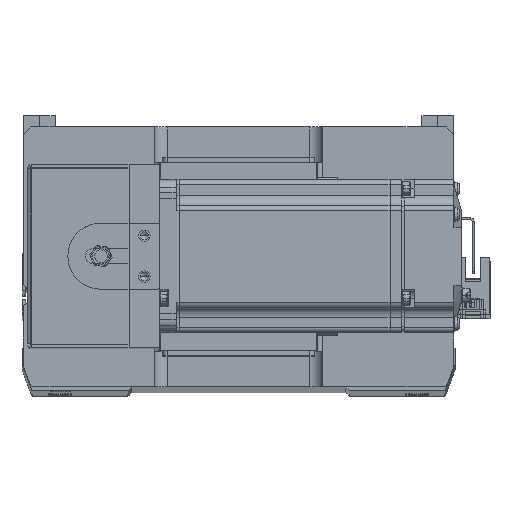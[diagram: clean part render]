
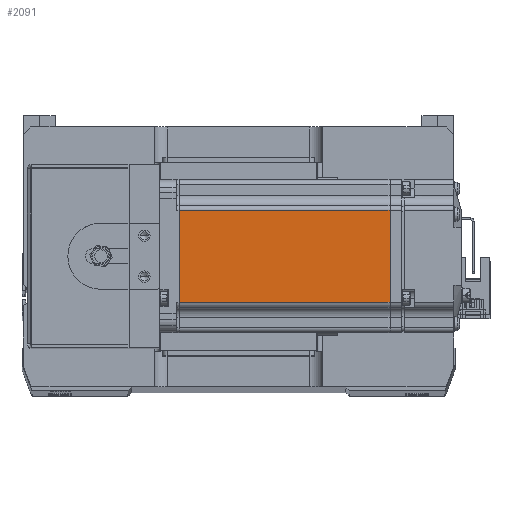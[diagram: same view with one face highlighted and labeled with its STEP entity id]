
A CAD part, top view. The second image highlights one B-rep face of the part: STEP entity #2091.
In plain terms, the highlighted planar face has unit normal (0, 0, 1) as drawn and (0, 1, 0) by its records, which use the part's own axes.
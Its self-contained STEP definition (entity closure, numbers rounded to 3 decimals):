
#392 = EDGE_CURVE ( 'NONE', #40227, #3144, #14775, .T. ) ;
#610 = VECTOR ( 'NONE', #40092, 1000. ) ;
#1896 = AXIS2_PLACEMENT_3D ( 'NONE', #32224, #12994, #17245 ) ;
#2091 = ADVANCED_FACE ( 'NONE', ( #15766 ), #28836, .T. ) ;
#3144 = VERTEX_POINT ( 'NONE', #5894 ) ;
#3884 = CARTESIAN_POINT ( 'NONE',  ( -7.75, 30., 18. ) ) ;
#4027 = EDGE_CURVE ( 'NONE', #3144, #21458, #20459, .T. ) ;
#4914 = CARTESIAN_POINT ( 'NONE',  ( -6.5, 30., 18. ) ) ;
#5120 = DIRECTION ( 'NONE',  ( 1., 0., 0. ) ) ;
#5894 = CARTESIAN_POINT ( 'NONE',  ( -90.45, 30., -18. ) ) ;
#10293 = ORIENTED_EDGE ( 'NONE', *, *, #392, .T. ) ;
#11146 = LINE ( 'NONE', #24197, #30686 ) ;
#12192 = CARTESIAN_POINT ( 'NONE',  ( -6.5, 30., -18. ) ) ;
#12994 = DIRECTION ( 'NONE',  ( 0., 1., 0. ) ) ;
#13019 = CARTESIAN_POINT ( 'NONE',  ( -90.45, 30., 18. ) ) ;
#14775 = LINE ( 'NONE', #12192, #31872 ) ;
#14916 = LINE ( 'NONE', #4914, #17253 ) ;
#15766 = FACE_OUTER_BOUND ( 'NONE', #36335, .T. ) ;
#17245 = DIRECTION ( 'NONE',  ( 0., 0., 1. ) ) ;
#17253 = VECTOR ( 'NONE', #5120, 1000. ) ;
#18301 = CARTESIAN_POINT ( 'NONE',  ( -7.75, 30., -18. ) ) ;
#18381 = DIRECTION ( 'NONE',  ( -1., 0., 0. ) ) ;
#20459 = LINE ( 'NONE', #33484, #610 ) ;
#21458 = VERTEX_POINT ( 'NONE', #13019 ) ;
#24197 = CARTESIAN_POINT ( 'NONE',  ( -7.75, 30., 0. ) ) ;
#24276 = ORIENTED_EDGE ( 'NONE', *, *, #30952, .F. ) ;
#28439 = ORIENTED_EDGE ( 'NONE', *, *, #37481, .T. ) ;
#28836 = PLANE ( 'NONE',  #1896 ) ;
#30686 = VECTOR ( 'NONE', #37176, 1000. ) ;
#30952 = EDGE_CURVE ( 'NONE', #40227, #35263, #11146, .T. ) ;
#31872 = VECTOR ( 'NONE', #18381, 1000. ) ;
#32224 = CARTESIAN_POINT ( 'NONE',  ( -6.5, 30., 25. ) ) ;
#33484 = CARTESIAN_POINT ( 'NONE',  ( -90.45, 30., 0. ) ) ;
#35263 = VERTEX_POINT ( 'NONE', #3884 ) ;
#36335 = EDGE_LOOP ( 'NONE', ( #24276, #10293, #41584, #28439 ) ) ;
#37176 = DIRECTION ( 'NONE',  ( 0., 0., 1. ) ) ;
#37481 = EDGE_CURVE ( 'NONE', #21458, #35263, #14916, .T. ) ;
#40092 = DIRECTION ( 'NONE',  ( 0., 0., 1. ) ) ;
#40227 = VERTEX_POINT ( 'NONE', #18301 ) ;
#41584 = ORIENTED_EDGE ( 'NONE', *, *, #4027, .T. ) ;
